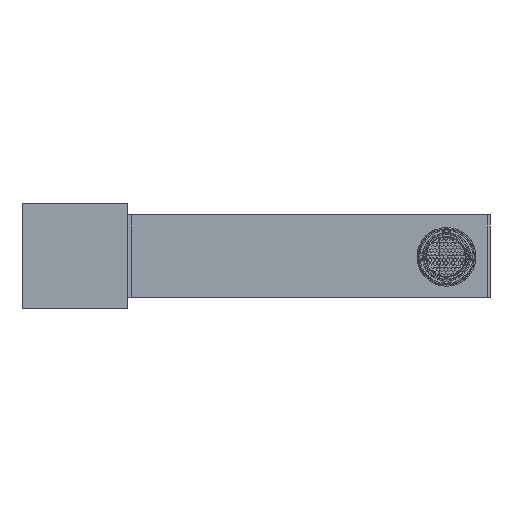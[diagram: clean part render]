
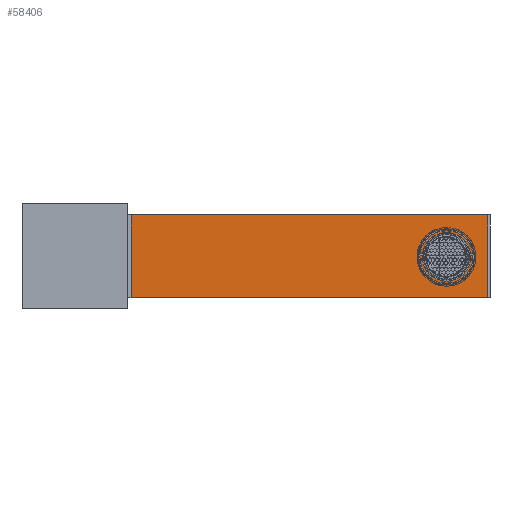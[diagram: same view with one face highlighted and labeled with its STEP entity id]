
A CAD part, front view. The second image highlights one B-rep face of the part: STEP entity #58406.
In plain terms, the highlighted planar face has unit normal (0, -1, 0).
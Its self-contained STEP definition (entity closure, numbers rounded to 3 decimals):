
#1124 = LINE ( 'NONE', #55506, #170446 ) ;
#5671 = PLANE ( 'NONE',  #74601 ) ;
#7240 = ORIENTED_EDGE ( 'NONE', *, *, #95567, .F. ) ;
#9752 = ORIENTED_EDGE ( 'NONE', *, *, #134438, .T. ) ;
#12710 = ORIENTED_EDGE ( 'NONE', *, *, #166234, .T. ) ;
#13696 = LINE ( 'NONE', #132438, #83451 ) ;
#15434 = EDGE_CURVE ( 'NONE', #75111, #163959, #1124, .T. ) ;
#33780 = VERTEX_POINT ( 'NONE', #99918 ) ;
#40482 = DIRECTION ( 'NONE',  ( 1., 0., 0. ) ) ;
#48590 = CARTESIAN_POINT ( 'NONE',  ( 376.376, 311.386, -2.53 ) ) ;
#49479 = DIRECTION ( 'NONE',  ( 0., 0., 1. ) ) ;
#50227 = ORIENTED_EDGE ( 'NONE', *, *, #15434, .T. ) ;
#51063 = CARTESIAN_POINT ( 'NONE',  ( 351.376, 311.386, -2.53 ) ) ;
#55506 = CARTESIAN_POINT ( 'NONE',  ( 231.376, 311.386, -2.53 ) ) ;
#58406 = ADVANCED_FACE ( 'NONE', ( #142137 ), #5671, .T. ) ;
#63767 = CARTESIAN_POINT ( 'NONE',  ( 231.376, 311.386, 31.17 ) ) ;
#64759 = CARTESIAN_POINT ( 'NONE',  ( 376.376, 311.386, 31.17 ) ) ;
#74601 = AXIS2_PLACEMENT_3D ( 'NONE', #51063, #119761, #91319 ) ;
#74785 = DIRECTION ( 'NONE',  ( 1., 0., 0. ) ) ;
#75111 = VERTEX_POINT ( 'NONE', #63767 ) ;
#76286 = LINE ( 'NONE', #48590, #130106 ) ;
#83451 = VECTOR ( 'NONE', #40482, 1000. ) ;
#91319 = DIRECTION ( 'NONE',  ( 0., 0., -1. ) ) ;
#95567 = EDGE_CURVE ( 'NONE', #75111, #121770, #168387, .T. ) ;
#99918 = CARTESIAN_POINT ( 'NONE',  ( 376.376, 311.386, -2.53 ) ) ;
#102815 = VECTOR ( 'NONE', #74785, 1000. ) ;
#109876 = DIRECTION ( 'NONE',  ( 0., 0., -1. ) ) ;
#119761 = DIRECTION ( 'NONE',  ( 0., -1., 0. ) ) ;
#121770 = VERTEX_POINT ( 'NONE', #64759 ) ;
#130106 = VECTOR ( 'NONE', #49479, 1000. ) ;
#132438 = CARTESIAN_POINT ( 'NONE',  ( 351.376, 311.386, -2.53 ) ) ;
#134438 = EDGE_CURVE ( 'NONE', #163959, #33780, #13696, .T. ) ;
#136918 = EDGE_LOOP ( 'NONE', ( #9752, #12710, #7240, #50227 ) ) ;
#142137 = FACE_OUTER_BOUND ( 'NONE', #136918, .T. ) ;
#142544 = CARTESIAN_POINT ( 'NONE',  ( 253.415, 311.386, 31.17 ) ) ;
#160412 = CARTESIAN_POINT ( 'NONE',  ( 231.376, 311.386, -2.53 ) ) ;
#163959 = VERTEX_POINT ( 'NONE', #160412 ) ;
#166234 = EDGE_CURVE ( 'NONE', #33780, #121770, #76286, .T. ) ;
#168387 = LINE ( 'NONE', #142544, #102815 ) ;
#170446 = VECTOR ( 'NONE', #109876, 1000. ) ;
